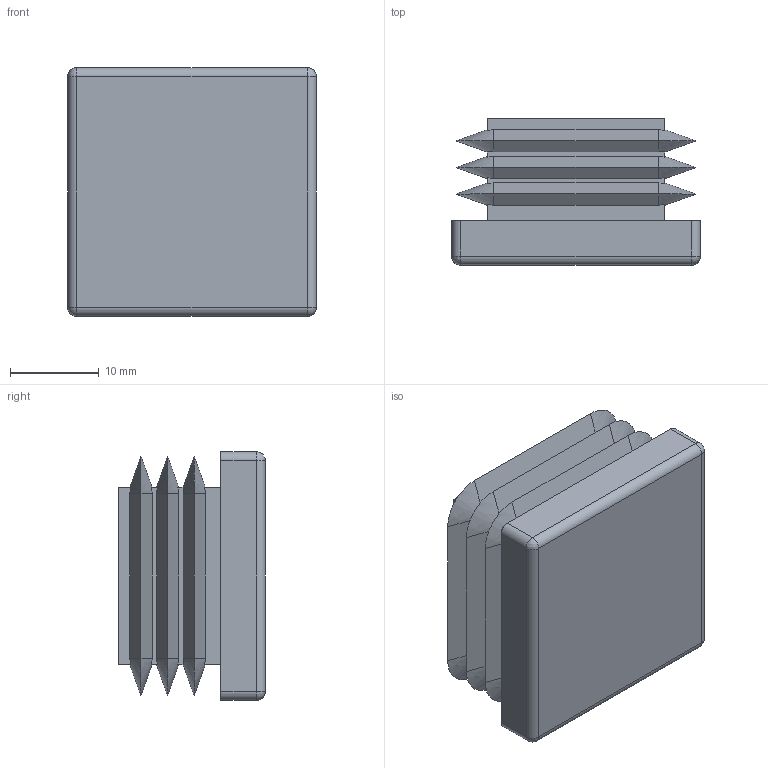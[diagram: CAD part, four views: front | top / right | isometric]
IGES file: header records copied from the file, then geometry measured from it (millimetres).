
Start section: SolidWorks IGES file using analytic representation for surfaces
Global section: file name: C:\HEMSIDA\cad\SLDPRT_2015\ifr\\ifr_28.igs; native system: SolidWorks 2015; preprocessor: SolidWorks 2015; author: Magnus; date: 150818.111757; units: millimetre
Bounding box: 28 x 16.5 x 28 mm (x, y, z)
Surface area: 5193.7 mm2 (no closed solid volume)
Topology: 0 solids, 0 shells, 88 faces, 608 edges, 604 vertices
Faces by surface type: bspline 52, revolution 36
